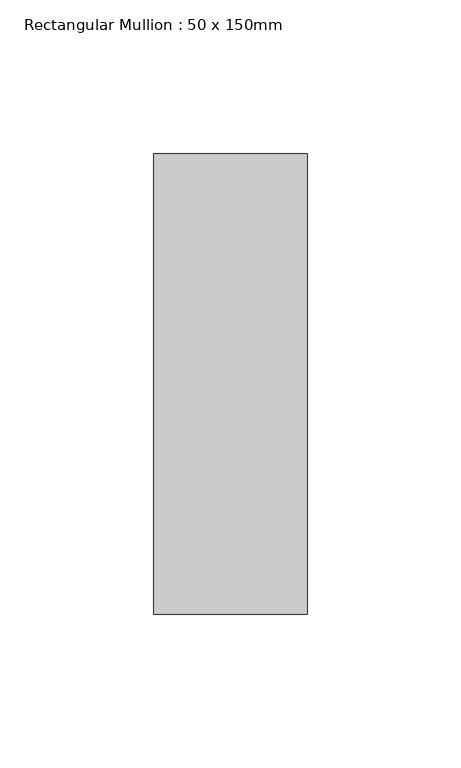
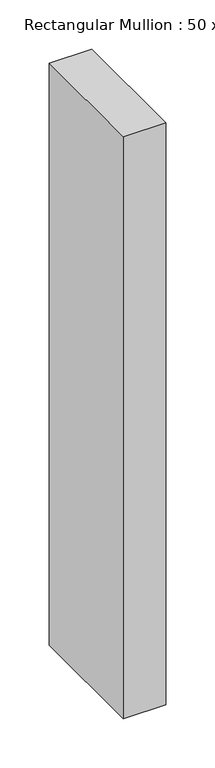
"""IFC4 building model written with IfcOpenShell, lengths in millimetres: member geometry, Rectangular Mullion : 50 x 150mm."""

from ifc_helpers import new_model, si_unit, frame, origin, place, context, project, spatial, polyline, outline, extrude, source, transform, mapped, element, save


def rectangular_mullion_50_x_150mm_9df94d2e(model_context):
    return source(origin(), model_context, "Body", "SweptSolid", [
        extrude(outline(polyline([(0.0, 75.0), (0.0, -75.0), (-50.0, -75.0), (-50.0, 75.0), (0.0, 75.0)])), frame((0.0, 0.0, -721.5), z_axis=(0.0, 0.0, 1.0), x_axis=(1.0, 0.0, 0.0)), (0.0, 0.0, 1.0), 721.5),
    ])


if __name__ == "__main__":
    model = new_model("IFC4")
    model_context = context("Model", 3, world=origin())
    ifc_project = project(units=[si_unit("LENGTHUNIT", "METRE", prefix="MILLI")], contexts=[model_context])
    site = spatial("IfcSite", under=ifc_project)
    building = spatial("IfcBuilding", under=site)
    placement = place(None, origin())
    rectangular_mullion_50_x_150mm_shape = rectangular_mullion_50_x_150mm_9df94d2e(model_context)
    element("IfcMember", 1, ObjectType="Rectangular Mullion : 50 x 150mm", at=placement, inside=building, context=model_context, shape_type="MappedRepresentation", body=[
        mapped(rectangular_mullion_50_x_150mm_shape, transform((0.0, 0.0, 0.0), x_axis=(1.0, 0.0, 0.0), y_axis=(0.0, 1.0, 0.0), z_axis=(0.0, 0.0, 1.0))),
    ])
    save(model, "model.ifc")
